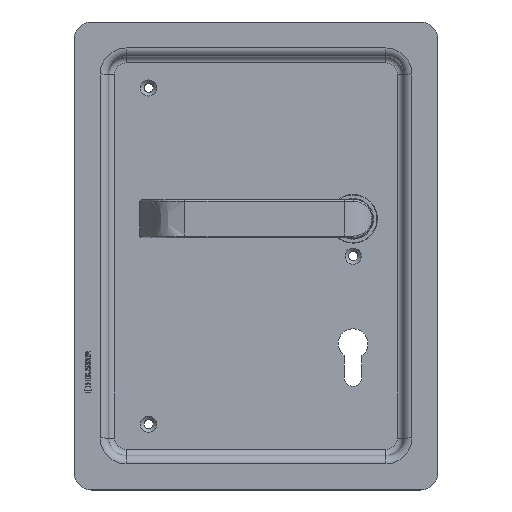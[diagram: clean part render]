
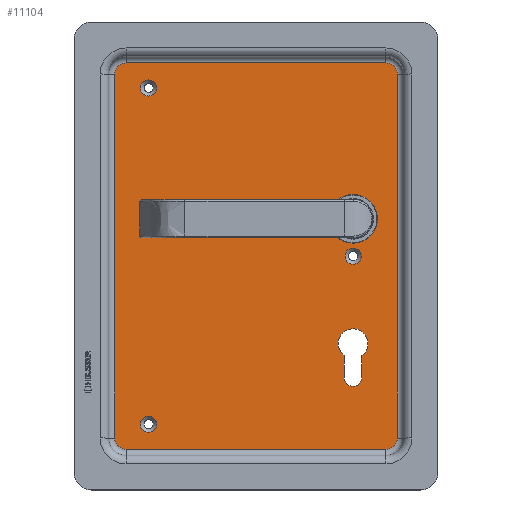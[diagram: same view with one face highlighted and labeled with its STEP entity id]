
A CAD part, top view. The second image highlights one B-rep face of the part: STEP entity #11104.
In plain terms, the highlighted planar face has unit normal (0, 0, 1).
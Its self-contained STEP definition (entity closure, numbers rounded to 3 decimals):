
#702=LINE('',#14768,#1663);
#703=LINE('',#14776,#1664);
#704=LINE('',#14786,#1665);
#707=LINE('',#14798,#1668);
#986=LINE('',#16359,#1947);
#987=LINE('',#16362,#1948);
#1663=VECTOR('',#12456,10.);
#1664=VECTOR('',#12467,10.);
#1665=VECTOR('',#12480,10.);
#1668=VECTOR('',#12495,10.);
#1947=VECTOR('',#13078,10.);
#1948=VECTOR('',#13081,10.);
#2685=FACE_BOUND('',#3607,.T.);
#2686=FACE_BOUND('',#3608,.T.);
#2687=FACE_BOUND('',#3609,.T.);
#2688=FACE_BOUND('',#3610,.T.);
#2689=FACE_BOUND('',#3611,.T.);
#2967=FACE_OUTER_BOUND('',#3606,.T.);
#3606=EDGE_LOOP('',(#7948,#7949,#7950,#7951,#7952,#7953,#7954,#7955));
#3607=EDGE_LOOP('',(#7956));
#3608=EDGE_LOOP('',(#7957,#7958,#7959,#7960));
#3609=EDGE_LOOP('',(#7961));
#3610=EDGE_LOOP('',(#7962));
#3611=EDGE_LOOP('',(#7963));
#4129=CIRCLE('',#11611,6.5);
#4132=CIRCLE('',#11616,6.5);
#4135=CIRCLE('',#11621,6.5);
#4139=CIRCLE('',#11627,6.5);
#4162=CIRCLE('',#11777,4.65);
#4163=CIRCLE('',#11779,4.65);
#4164=CIRCLE('',#11781,14.);
#4165=CIRCLE('',#11782,8.6);
#4166=CIRCLE('',#11783,5.1);
#4167=CIRCLE('',#11784,4.65);
#4343=VERTEX_POINT('',#14761);
#4344=VERTEX_POINT('',#14763);
#4345=VERTEX_POINT('',#14767);
#4346=VERTEX_POINT('',#14771);
#4347=VERTEX_POINT('',#14775);
#4348=VERTEX_POINT('',#14779);
#4350=VERTEX_POINT('',#14785);
#4352=VERTEX_POINT('',#14791);
#4630=VERTEX_POINT('',#16347);
#4631=VERTEX_POINT('',#16350);
#4632=VERTEX_POINT('',#16353);
#4633=VERTEX_POINT('',#16355);
#4634=VERTEX_POINT('',#16356);
#4635=VERTEX_POINT('',#16358);
#4636=VERTEX_POINT('',#16360);
#4637=VERTEX_POINT('',#16363);
#5411=EDGE_CURVE('',#4344,#4343,#4129,.T.);
#5413=EDGE_CURVE('',#4345,#4344,#702,.T.);
#5415=EDGE_CURVE('',#4346,#4345,#4132,.T.);
#5417=EDGE_CURVE('',#4347,#4346,#703,.T.);
#5419=EDGE_CURVE('',#4348,#4347,#4135,.T.);
#5422=EDGE_CURVE('',#4350,#4348,#704,.T.);
#5425=EDGE_CURVE('',#4352,#4350,#4139,.T.);
#5429=EDGE_CURVE('',#4343,#4352,#707,.T.);
#5850=EDGE_CURVE('',#4630,#4630,#4162,.T.);
#5851=EDGE_CURVE('',#4631,#4631,#4163,.T.);
#5852=EDGE_CURVE('',#4632,#4632,#4164,.T.);
#5853=EDGE_CURVE('',#4633,#4634,#4165,.T.);
#5854=EDGE_CURVE('',#4634,#4635,#986,.T.);
#5855=EDGE_CURVE('',#4635,#4636,#4166,.T.);
#5856=EDGE_CURVE('',#4636,#4633,#987,.T.);
#5857=EDGE_CURVE('',#4637,#4637,#4167,.T.);
#7948=ORIENTED_EDGE('',*,*,#5429,.T.);
#7949=ORIENTED_EDGE('',*,*,#5425,.T.);
#7950=ORIENTED_EDGE('',*,*,#5422,.T.);
#7951=ORIENTED_EDGE('',*,*,#5419,.T.);
#7952=ORIENTED_EDGE('',*,*,#5417,.T.);
#7953=ORIENTED_EDGE('',*,*,#5415,.T.);
#7954=ORIENTED_EDGE('',*,*,#5413,.T.);
#7955=ORIENTED_EDGE('',*,*,#5411,.T.);
#7956=ORIENTED_EDGE('',*,*,#5852,.T.);
#7957=ORIENTED_EDGE('',*,*,#5853,.T.);
#7958=ORIENTED_EDGE('',*,*,#5854,.T.);
#7959=ORIENTED_EDGE('',*,*,#5855,.T.);
#7960=ORIENTED_EDGE('',*,*,#5856,.T.);
#7961=ORIENTED_EDGE('',*,*,#5851,.F.);
#7962=ORIENTED_EDGE('',*,*,#5850,.F.);
#7963=ORIENTED_EDGE('',*,*,#5857,.F.);
#10083=PLANE('',#11780);
#11104=ADVANCED_FACE('',(#2967,#2685,#2686,#2687,#2688,#2689),#10083,.F.);
#11611=AXIS2_PLACEMENT_3D('',#14764,#12450,#12451);
#11616=AXIS2_PLACEMENT_3D('',#14772,#12461,#12462);
#11621=AXIS2_PLACEMENT_3D('',#14780,#12472,#12473);
#11627=AXIS2_PLACEMENT_3D('',#14792,#12486,#12487);
#11777=AXIS2_PLACEMENT_3D('',#16348,#13066,#13067);
#11779=AXIS2_PLACEMENT_3D('',#16351,#13070,#13071);
#11780=AXIS2_PLACEMENT_3D('',#16352,#13072,#13073);
#11781=AXIS2_PLACEMENT_3D('',#16354,#13074,#13075);
#11782=AXIS2_PLACEMENT_3D('',#16357,#13076,#13077);
#11783=AXIS2_PLACEMENT_3D('',#16361,#13079,#13080);
#11784=AXIS2_PLACEMENT_3D('',#16364,#13082,#13083);
#12450=DIRECTION('center_axis',(0.,0.,
1.));
#12451=DIRECTION('ref_axis',(0.707,0.707,0.));
#12456=DIRECTION('',(0.,1.,0.));
#12461=DIRECTION('center_axis',(0.,0.,
1.));
#12462=DIRECTION('ref_axis',(0.707,-0.707,0.));
#12467=DIRECTION('',(1.,0.,0.));
#12472=DIRECTION('center_axis',(0.,0.,
1.));
#12473=DIRECTION('ref_axis',(-0.707,-0.707,0.));
#12480=DIRECTION('',(0.,-1.,0.));
#12486=DIRECTION('center_axis',(0.,0.,
1.));
#12487=DIRECTION('ref_axis',(-0.707,0.707,0.));
#12495=DIRECTION('',(-1.,0.,0.));
#13066=DIRECTION('center_axis',(0.,0.,
1.));
#13067=DIRECTION('ref_axis',(1.,0.,0.));
#13070=DIRECTION('center_axis',(0.,0.,
1.));
#13071=DIRECTION('ref_axis',(1.,0.,0.));
#13072=DIRECTION('center_axis',(0.,0.,
-1.));
#13073=DIRECTION('ref_axis',(1.,0.,0.));
#13074=DIRECTION('center_axis',(0.,0.,
-1.));
#13075=DIRECTION('ref_axis',(0.,-1.,0.));
#13076=DIRECTION('center_axis',(0.,0.,
-1.));
#13077=DIRECTION('ref_axis',(-0.588,0.809,0.));
#13078=DIRECTION('',(0.003,-1.,0.));
#13079=DIRECTION('center_axis',(0.,0.,
-1.));
#13080=DIRECTION('ref_axis',(1.,-0.002,0.));
#13081=DIRECTION('',(0.002,1.,0.));
#13082=DIRECTION('center_axis',(0.,0.,
1.));
#13083=DIRECTION('ref_axis',(1.,0.,0.));
#14761=CARTESIAN_POINT('',(71.893,122.762,-20.));
#14763=CARTESIAN_POINT('',(78.393,116.262,-20.));
#14764=CARTESIAN_POINT('Origin',(71.893,116.262,-20.));
#14767=CARTESIAN_POINT('',(78.393,-93.738,-20.));
#14768=CARTESIAN_POINT('',(78.393,-41.238,-20.));
#14771=CARTESIAN_POINT('',(71.893,-100.238,-20.));
#14772=CARTESIAN_POINT('Origin',(71.893,-93.738,-20.));
#14775=CARTESIAN_POINT('',(-78.107,-100.238,-20.));
#14776=CARTESIAN_POINT('',(-40.607,-100.238,-20.));
#14779=CARTESIAN_POINT('',(-84.607,-93.738,-20.));
#14780=CARTESIAN_POINT('Origin',(-78.107,-93.738,-20.));
#14785=CARTESIAN_POINT('',(-84.607,116.262,-20.));
#14786=CARTESIAN_POINT('',(-84.607,63.762,-20.));
#14791=CARTESIAN_POINT('',(-78.107,122.762,-20.));
#14792=CARTESIAN_POINT('Origin',(-78.107,116.262,-20.));
#14798=CARTESIAN_POINT('',(34.393,122.762,-20.));
#16347=CARTESIAN_POINT('',(48.243,11.262,-20.));
#16348=CARTESIAN_POINT('Origin',(52.893,11.262,-20.));
#16350=CARTESIAN_POINT('',(-69.757,108.262,-20.));
#16351=CARTESIAN_POINT('Origin',(-65.107,108.262,-20.));
#16352=CARTESIAN_POINT('Origin',(-3.107,11.262,-20.));
#16353=CARTESIAN_POINT('',(52.893,46.762,-20.));
#16354=CARTESIAN_POINT('Origin',(52.893,32.762,-20.));
#16355=CARTESIAN_POINT('',(47.813,-46.177,-20.));
#16356=CARTESIAN_POINT('',(57.951,-46.194,-20.));
#16357=CARTESIAN_POINT('Origin',(52.893,-39.238,-20.));
#16358=CARTESIAN_POINT('',(57.993,-58.743,-20.));
#16359=CARTESIAN_POINT('',(57.853,-17.362,-20.));
#16360=CARTESIAN_POINT('',(47.793,-58.752,-20.));
#16361=CARTESIAN_POINT('Origin',(52.893,-58.761,-20.));
#16362=CARTESIAN_POINT('',(47.849,-23.786,-20.));
#16363=CARTESIAN_POINT('',(-69.757,-85.738,-20.));
#16364=CARTESIAN_POINT('Origin',(-65.107,-85.738,-20.));
